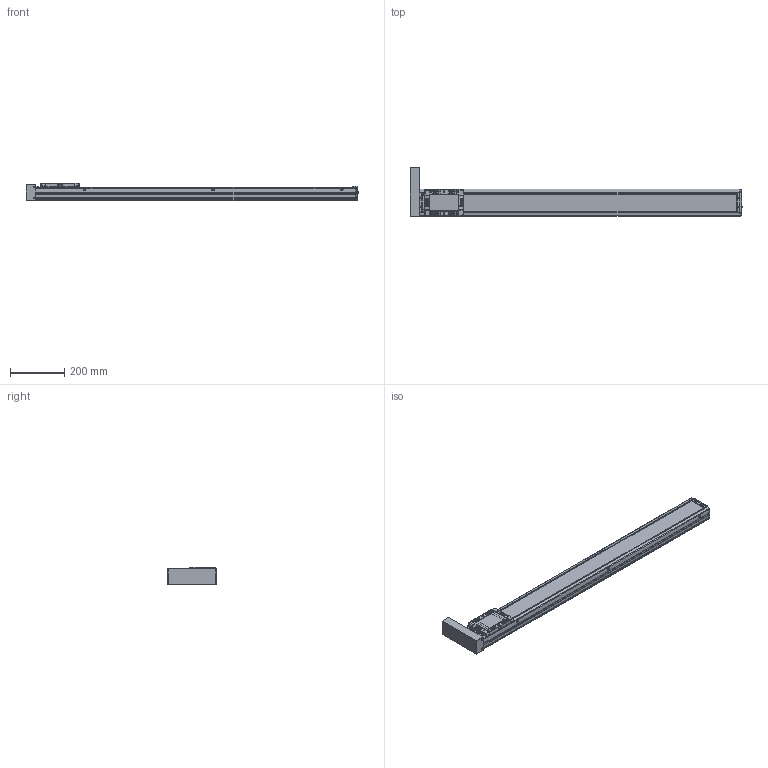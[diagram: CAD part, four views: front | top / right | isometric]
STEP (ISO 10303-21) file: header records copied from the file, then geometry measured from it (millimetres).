
FILE_DESCRIPTION(('STEP AP214'),'1');
FILE_NAME('Z:/Web/3D/SAN100/SAN100 양산용 (STEP)/SAN100ㅁㅁ-1000PL.stp','2013-04-30T05:04:40',(' '),(' '),'Spatial InterOp 3D',' ',' ');
FILE_SCHEMA(('automotive_design'));
Length unit declared in the file: millimetre
Products named in the file (33): BTCV-SAN65; BHCS M3 X 6L; SUS COVER; SFX-SAN100; RRCV-SAN100; 스크루 : Round - M4.0 x 10.0; M3.0 x 6.0; 스크루 : Round - M3.0 x 6.0; FRBL-SAN100; SLBL-SAN100; SLCV-SAN100; 스크루 : Countersunk - M3.0 x 6.0; BASE; 스크루 : Round - M5.0 x 6.0
Bounding box: 1226.5 x 184.13 x 66 mm (x, y, z)
Volume: 3501075.9 mm3; surface area: 791437.1 mm2
Topology: 33 solids, 34 shells, 2034 faces, 5322 edges, 3413 vertices
Faces by surface type: plane 963, cylinder 795, cone 194, sphere 48, torus 18, bspline 16
Entity records: 80450 total; most frequent: CARTESIAN_POINT 12372, DIRECTION 11217, ORIENTED_EDGE 10424, EDGE_CURVE 5212, AXIS2_PLACEMENT_3D 4071, VERTEX_POINT 3413, LINE 3075, VECTOR 3075
